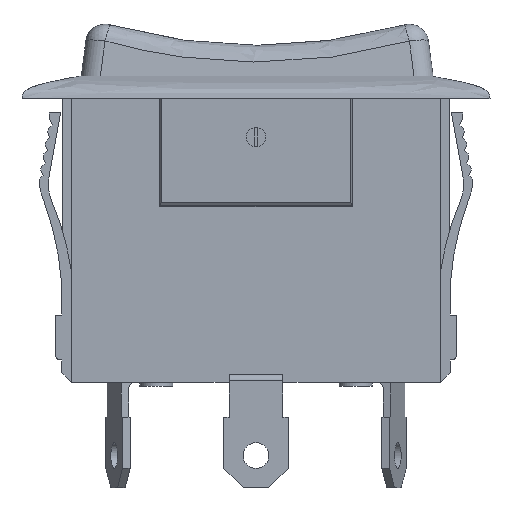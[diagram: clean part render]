
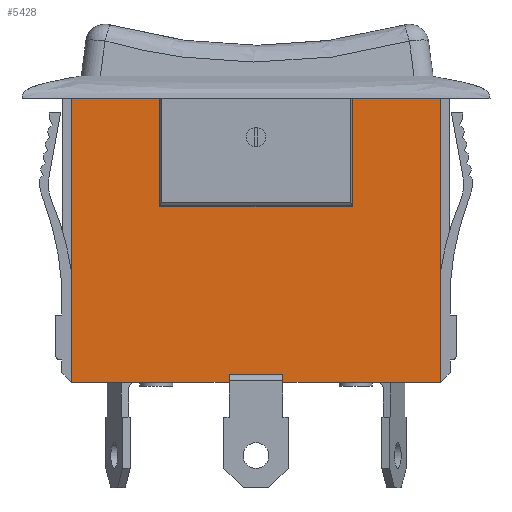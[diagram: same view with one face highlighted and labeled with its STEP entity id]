
A CAD part, front view. The second image highlights one B-rep face of the part: STEP entity #5428.
In plain terms, the highlighted planar face has unit normal (0, -1, 0).
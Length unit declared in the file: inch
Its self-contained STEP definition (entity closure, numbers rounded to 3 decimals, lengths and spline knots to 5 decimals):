
#343=PLANE('',#5938);
#585=FACE_OUTER_BOUND('',#868,.T.);
#868=EDGE_LOOP('',(#4609,#4610,#4611,#4612,#4613,#4614,#4615,#4616,#4617,
#4618,#4619,#4620));
#1099=LINE('',#7844,#1746);
#1111=LINE('',#7873,#1758);
#1384=LINE('',#8475,#2031);
#1387=LINE('',#8481,#2034);
#1389=LINE('',#8484,#2036);
#1394=LINE('',#8494,#2041);
#1395=LINE('',#8495,#2042);
#1421=LINE('',#8549,#2068);
#1427=LINE('',#8561,#2074);
#1430=LINE('',#8566,#2077);
#1447=LINE('',#8600,#2094);
#1448=LINE('',#8601,#2095);
#1746=VECTOR('',#6313,0.3937);
#1758=VECTOR('',#6339,0.3937);
#2031=VECTOR('',#6892,0.3937);
#2034=VECTOR('',#6897,0.3937);
#2036=VECTOR('',#6901,0.3937);
#2041=VECTOR('',#6908,0.3937);
#2042=VECTOR('',#6909,0.3937);
#2068=VECTOR('',#6961,0.3937);
#2074=VECTOR('',#6969,0.3937);
#2077=VECTOR('',#6976,0.3937);
#2094=VECTOR('',#7011,0.3937);
#2095=VECTOR('',#7012,0.3937);
#2490=VERTEX_POINT('',#7841);
#2491=VERTEX_POINT('',#7843);
#2500=VERTEX_POINT('',#7870);
#2501=VERTEX_POINT('',#7872);
#2689=VERTEX_POINT('',#8472);
#2690=VERTEX_POINT('',#8474);
#2691=VERTEX_POINT('',#8478);
#2692=VERTEX_POINT('',#8480);
#2709=VERTEX_POINT('',#8545);
#2711=VERTEX_POINT('',#8548);
#2714=VERTEX_POINT('',#8555);
#2716=VERTEX_POINT('',#8559);
#3015=EDGE_CURVE('',#2491,#2490,#1099,.T.);
#3029=EDGE_CURVE('',#2500,#2501,#1111,.T.);
#3332=EDGE_CURVE('',#2690,#2689,#1384,.T.);
#3335=EDGE_CURVE('',#2692,#2691,#1387,.T.);
#3337=EDGE_CURVE('',#2689,#2692,#1389,.T.);
#3342=EDGE_CURVE('',#2491,#2691,#1394,.T.);
#3343=EDGE_CURVE('',#2690,#2500,#1395,.T.);
#3369=EDGE_CURVE('',#2711,#2709,#1421,.T.);
#3375=EDGE_CURVE('',#2714,#2716,#1427,.T.);
#3378=EDGE_CURVE('',#2716,#2711,#1430,.T.);
#3395=EDGE_CURVE('',#2714,#2490,#1447,.T.);
#3396=EDGE_CURVE('',#2501,#2709,#1448,.T.);
#4609=ORIENTED_EDGE('',*,*,#3335,.T.);
#4610=ORIENTED_EDGE('',*,*,#3342,.F.);
#4611=ORIENTED_EDGE('',*,*,#3015,.T.);
#4612=ORIENTED_EDGE('',*,*,#3395,.F.);
#4613=ORIENTED_EDGE('',*,*,#3375,.T.);
#4614=ORIENTED_EDGE('',*,*,#3378,.T.);
#4615=ORIENTED_EDGE('',*,*,#3369,.T.);
#4616=ORIENTED_EDGE('',*,*,#3396,.F.);
#4617=ORIENTED_EDGE('',*,*,#3029,.F.);
#4618=ORIENTED_EDGE('',*,*,#3343,.F.);
#4619=ORIENTED_EDGE('',*,*,#3332,.T.);
#4620=ORIENTED_EDGE('',*,*,#3337,.T.);
#5428=ADVANCED_FACE('',(#585),#343,.T.);
#5938=AXIS2_PLACEMENT_3D('',#8599,#7009,#7010);
#6313=DIRECTION('',(0.,0.,-1.));
#6339=DIRECTION('',(0.,0.,-1.));
#6892=DIRECTION('',(0.,0.,-1.));
#6897=DIRECTION('',(0.,0.,1.));
#6901=DIRECTION('',(-1.,0.,0.));
#6908=DIRECTION('',(1.,0.,0.));
#6909=DIRECTION('',(1.,0.,0.));
#6961=DIRECTION('',(0.,0.,-1.));
#6969=DIRECTION('',(0.,0.,1.));
#6976=DIRECTION('',(1.,0.,0.));
#7009=DIRECTION('center_axis',(0.,-1.,0.));
#7010=DIRECTION('ref_axis',(-1.,0.,0.));
#7011=DIRECTION('',(-1.,0.,0.));
#7012=DIRECTION('',(-1.,0.,0.));
#7841=CARTESIAN_POINT('',(0.193,0.0985,-1.106));
#7843=CARTESIAN_POINT('',(0.193,0.0985,0.));
#7844=CARTESIAN_POINT('',(0.193,0.0985,0.));
#7870=CARTESIAN_POINT('',(1.63,0.0985,0.));
#7872=CARTESIAN_POINT('',(1.63,0.0985,-1.106));
#7873=CARTESIAN_POINT('',(1.63,0.0985,0.));
#8472=CARTESIAN_POINT('',(1.2865,0.0985,-0.421));
#8474=CARTESIAN_POINT('',(1.2865,0.0985,0.));
#8475=CARTESIAN_POINT('',(1.2865,0.0985,0.01));
#8478=CARTESIAN_POINT('',(0.5365,0.0985,0.));
#8480=CARTESIAN_POINT('',(0.5365,0.0985,-0.421));
#8481=CARTESIAN_POINT('',(0.5365,0.0985,-0.2105));
#8484=CARTESIAN_POINT('',(1.45825,0.0985,-0.421));
#8494=CARTESIAN_POINT('',(1.27075,0.0985,0.));
#8495=CARTESIAN_POINT('',(1.27075,0.0985,0.));
#8545=CARTESIAN_POINT('',(1.0165,0.0985,-1.106));
#8548=CARTESIAN_POINT('',(1.0165,0.0985,-1.075));
#8549=CARTESIAN_POINT('',(1.0165,0.0985,-0.553));
#8555=CARTESIAN_POINT('',(0.8065,0.0985,-1.106));
#8559=CARTESIAN_POINT('',(0.8065,0.0985,-1.075));
#8561=CARTESIAN_POINT('',(0.8065,0.0985,-0.553));
#8566=CARTESIAN_POINT('',(1.27075,0.0985,-1.075));
#8599=CARTESIAN_POINT('Origin',(1.63,0.0985,0.));
#8600=CARTESIAN_POINT('',(0.193,0.0985,-1.106));
#8601=CARTESIAN_POINT('',(0.193,0.0985,-1.106));
